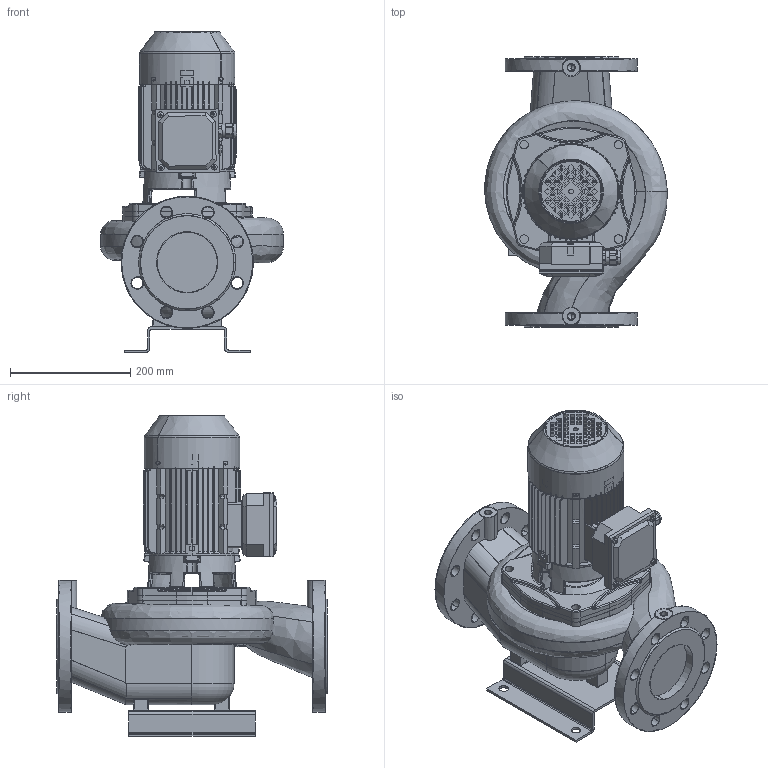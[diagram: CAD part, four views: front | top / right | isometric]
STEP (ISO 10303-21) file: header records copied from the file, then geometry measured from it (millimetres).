
FILE_DESCRIPTION(('STEP AP214'),'1');
FILE_NAME('export.stp','2018-05-28T10:09:32',(' '),(' '),'Spatial InterOp 3D',' ',' ');
FILE_SCHEMA(('AUTOMOTIVE_DESIGN { 1 0 10303 214 1 1 1 1 }'));
Length unit declared in the file: millimetre
Products named in the file (22): 160022; 160003; V_MKP80-2_F19; 160141; 160137; 160138; 160139; 160140; Koura_Ale_M5; Plug_Blind_M20; Sealing_Plug_M20; DIN_7985-M5X8; DIN_7985-M5X12; 480032; 480031___; 480034; 480033___; 160133; W_AL11024750-KP80; V_TLL65AB80A1102; V_PPAL1102; V_JALKA35973
Assembly tree (24 placements, depth 4):
  W_AL11024750-KP80
    V_MKP80-2_F19
      160022
        160003
      160141
        160137
        160138
        160139
        160140
        Koura_Ale_M5
        Plug_Blind_M20
        Sealing_Plug_M20
        DIN_7985-M5X8
        DIN_7985-M5X12  x4
      480032
        480031___
      480034
        480033___
      160133
    V_TLL65AB80A1102
    V_PPAL1102
    V_JALKA35973
Bounding box: 304.08 x 450 x 534.11 mm (x, y, z)
Volume: 2558717.9 mm3; surface area: 2004867.3 mm2
Topology: 19 solids, 19 shells, 3003 faces, 7961 edges, 4967 vertices
Faces by surface type: plane 1121, cylinder 1021, bspline 342, torus 284, cone 163, sphere 64, offset 8
Entity records: 123711 total; most frequent: CARTESIAN_POINT 46395, ORIENTED_EDGE 15466, DIRECTION 14270, EDGE_CURVE 7733, AXIS2_PLACEMENT_3D 5449, VERTEX_POINT 4871, LINE 3372, VECTOR 3372
